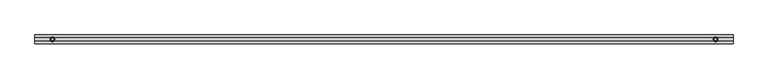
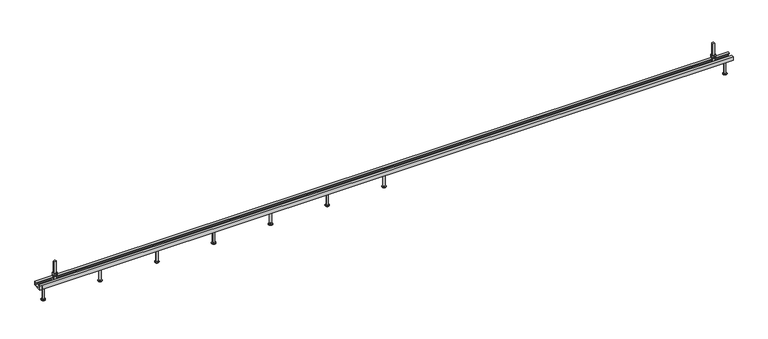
"""IFC4 building model written with IfcOpenShell, lengths in millimetres: fastener geometry, JTA-K JORDAHL® AnchorChannels : JTA-K L=3000 mm."""

from ifc_helpers import new_model, si_unit, point, frame, frame_2d, origin, place, context, project, spatial, polyline, circle_curve, trimmed, segment, composite_curve, outline, extrude, source, transform, mapped, element, save
from ifc_brep_helpers import plane_surface, cylinder_surface, revolved_surface, advanced_brep


def fastener_4211a4d2(model_context):
    return source(origin(), model_context, "Body", "SolidModel", [
        advanced_brep(
        [(1500.0, 0.0, -17.0), (1513.5, 0.0, -17.0), (1486.5, 0.0, -17.0), (1491.5, 0.0, -80.0), (1508.5, 0.0, -80.0), (1500.0, 0.0, -80.0), (1491.5, 0.0, -78.0), (1508.5, 0.0, -78.0), (1495.5, 0.0, -75.6905989), (1504.5, 0.0, -75.6905989), (1495.5, 0.0, -19.5), (1504.5, 0.0, -19.5)],
        [
            (0, 1),
            (1, 2, circle_curve(frame((1500.0, 0.0, -17.0), z_axis=(0.0, 0.0, 1.0), x_axis=(1.0, 0.0, 0.0)), 13.5)),
            (2, 0),
            (2, 1, circle_curve(frame((1500.0, 0.0, -17.0), z_axis=(0.0, 0.0, 1.0), x_axis=(1.0, 0.0, 0.0)), 13.5)),
            (3, 4, circle_curve(frame((1500.0, 0.0, -80.0), z_axis=(0.0, 0.0, -1.0), x_axis=(1.0, 0.0, 0.0)), 8.5)),
            (4, 5),
            (5, 3),
            (4, 3, circle_curve(frame((1500.0, 0.0, -80.0), z_axis=(0.0, 0.0, -1.0), x_axis=(1.0, 0.0, 0.0)), 8.5)),
            (6, 7, circle_curve(frame((1500.0, 0.0, -78.0), z_axis=(0.0, 0.0, -1.0), x_axis=(1.0, 0.0, 0.0)), 8.5)),
            (7, 4),
            (3, 6),
            (7, 6, circle_curve(frame((1500.0, 0.0, -78.0), z_axis=(0.0, 0.0, -1.0), x_axis=(1.0, 0.0, 0.0)), 8.5)),
            (8, 9, circle_curve(frame((1500.0, 0.0, -75.6905989), z_axis=(0.0, 0.0, -1.0), x_axis=(1.0, 0.0, 0.0)), 4.5)),
            (9, 7),
            (6, 8),
            (9, 8, circle_curve(frame((1500.0, 0.0, -75.6905989), z_axis=(0.0, 0.0, -1.0), x_axis=(1.0, 0.0, 0.0)), 4.5)),
            (10, 11, circle_curve(frame((1500.0, 0.0, -19.5), z_axis=(0.0, 0.0, -1.0), x_axis=(1.0, 0.0, 0.0)), 4.5)),
            (11, 9),
            (8, 10),
            (11, 10, circle_curve(frame((1500.0, 0.0, -19.5), z_axis=(0.0, 0.0, -1.0), x_axis=(1.0, 0.0, 0.0)), 4.5)),
            (1, 11),
            (10, 2),
        ],
        [
            plane_surface(frame((1500.0, 0.0, -17.0), z_axis=(0.0, 0.0, 1.0), x_axis=(1.0, 0.0, 0.0))),
            plane_surface(frame((1500.0, 0.0, -80.0), z_axis=(0.0, 0.0, -1.0), x_axis=(1.0, 0.0, 0.0))),
            cylinder_surface(frame((1500.0, 0.0, 2277.3150031), z_axis=(0.0, 0.0, 1.0), x_axis=(1.0, 0.0, 0.0)), 8.5),
            revolved_surface(polyline([(1508.5, 0.0, -78.0), (1504.5, 0.0, -75.6905989)]), (1500.0, 0.0, 2277.3150031), (0.0, 0.0, 1.0)),
            cylinder_surface(frame((1500.0, 0.0, 2277.3150031), z_axis=(0.0, 0.0, 1.0), x_axis=(1.0, 0.0, 0.0)), 4.5),
            revolved_surface(polyline([(1504.5, 0.0, -19.5), (1513.5, 0.0, -17.0)]), (1500.0, 0.0, 2277.3150031), (0.0, 0.0, 1.0)),
        ],
        [
            (0, [[1, 2, 3]]),
            (0, [[-3, 4, -1]]),
            (1, [[5, 6, 7]]),
            (1, [[8, -7, -6]]),
            (2, [[9, 10, -5, 11]]),
            (2, [[12, -11, -8, -10]]),
            (3, [[13, 14, -9, 15]]),
            (3, [[16, -15, -12, -14]]),
            (4, [[17, 18, -13, 19]]),
            (4, [[20, -19, -16, -18]]),
            (5, [[-2, 21, -17, 22]]),
            (5, [[-4, -22, -20, -21]]),
        ],
    ),
        advanced_brep(
        [(1254.1666667, 0.0, -17.0), (1267.6666667, 0.0, -17.0), (1240.6666667, 0.0, -17.0), (1245.6666667, 0.0, -80.0), (1262.6666667, 0.0, -80.0), (1254.1666667, 0.0, -80.0), (1245.6666667, 0.0, -78.0), (1262.6666667, 0.0, -78.0), (1249.6666667, 0.0, -75.6905989), (1258.6666667, 0.0, -75.6905989), (1249.6666667, 0.0, -19.5), (1258.6666667, 0.0, -19.5)],
        [
            (0, 1),
            (1, 2, circle_curve(frame((1254.1666667, 0.0, -17.0), z_axis=(0.0, 0.0, 1.0), x_axis=(1.0, 0.0, 0.0)), 13.5)),
            (2, 0),
            (2, 1, circle_curve(frame((1254.1666667, 0.0, -17.0), z_axis=(0.0, 0.0, 1.0), x_axis=(1.0, 0.0, 0.0)), 13.5)),
            (3, 4, circle_curve(frame((1254.1666667, 0.0, -80.0), z_axis=(0.0, 0.0, -1.0), x_axis=(1.0, 0.0, 0.0)), 8.5)),
            (4, 5),
            (5, 3),
            (4, 3, circle_curve(frame((1254.1666667, 0.0, -80.0), z_axis=(0.0, 0.0, -1.0), x_axis=(1.0, 0.0, 0.0)), 8.5)),
            (6, 7, circle_curve(frame((1254.1666667, 0.0, -78.0), z_axis=(0.0, 0.0, -1.0), x_axis=(1.0, 0.0, 0.0)), 8.5)),
            (7, 4),
            (3, 6),
            (7, 6, circle_curve(frame((1254.1666667, 0.0, -78.0), z_axis=(0.0, 0.0, -1.0), x_axis=(1.0, 0.0, 0.0)), 8.5)),
            (8, 9, circle_curve(frame((1254.1666667, 0.0, -75.6905989), z_axis=(0.0, 0.0, -1.0), x_axis=(1.0, 0.0, 0.0)), 4.5)),
            (9, 7),
            (6, 8),
            (9, 8, circle_curve(frame((1254.1666667, 0.0, -75.6905989), z_axis=(0.0, 0.0, -1.0), x_axis=(1.0, 0.0, 0.0)), 4.5)),
            (10, 11, circle_curve(frame((1254.1666667, 0.0, -19.5), z_axis=(0.0, 0.0, -1.0), x_axis=(1.0, 0.0, 0.0)), 4.5)),
            (11, 9),
            (8, 10),
            (11, 10, circle_curve(frame((1254.1666667, 0.0, -19.5), z_axis=(0.0, 0.0, -1.0), x_axis=(1.0, 0.0, 0.0)), 4.5)),
            (1, 11),
            (10, 2),
        ],
        [
            plane_surface(frame((1254.1666667, 0.0, -17.0), z_axis=(0.0, 0.0, 1.0), x_axis=(1.0, 0.0, 0.0))),
            plane_surface(frame((1254.1666667, 0.0, -80.0), z_axis=(0.0, 0.0, -1.0), x_axis=(1.0, 0.0, 0.0))),
            cylinder_surface(frame((1254.1666667, 0.0, 2277.3150031), z_axis=(0.0, 0.0, 1.0), x_axis=(1.0, 0.0, 0.0)), 8.5),
            revolved_surface(polyline([(1262.6666667, 0.0, -78.0), (1258.6666667, 0.0, -75.6905989)]), (1254.1666667, 0.0, 2277.3150031), (0.0, 0.0, 1.0)),
            cylinder_surface(frame((1254.1666667, 0.0, 2277.3150031), z_axis=(0.0, 0.0, 1.0), x_axis=(1.0, 0.0, 0.0)), 4.5),
            revolved_surface(polyline([(1258.6666667, 0.0, -19.5), (1267.6666667, 0.0, -17.0)]), (1254.1666667, 0.0, 2277.3150031), (0.0, 0.0, 1.0)),
        ],
        [
            (0, [[1, 2, 3]]),
            (0, [[-3, 4, -1]]),
            (1, [[5, 6, 7]]),
            (1, [[8, -7, -6]]),
            (2, [[9, 10, -5, 11]]),
            (2, [[12, -11, -8, -10]]),
            (3, [[13, 14, -9, 15]]),
            (3, [[16, -15, -12, -14]]),
            (4, [[17, 18, -13, 19]]),
            (4, [[20, -19, -16, -18]]),
            (5, [[-2, 21, -17, 22]]),
            (5, [[-4, -22, -20, -21]]),
        ],
    ),
        advanced_brep(
        [(1008.3333333, 0.0, -17.0), (1021.8333333, 0.0, -17.0), (994.8333333, 0.0, -17.0), (999.8333333, 0.0, -80.0), (1016.8333333, 0.0, -80.0), (1008.3333333, 0.0, -80.0), (999.8333333, 0.0, -78.0), (1016.8333333, 0.0, -78.0), (1003.8333333, 0.0, -75.6905989), (1012.8333333, 0.0, -75.6905989), (1003.8333333, 0.0, -19.5), (1012.8333333, 0.0, -19.5)],
        [
            (0, 1),
            (1, 2, circle_curve(frame((1008.3333333, 0.0, -17.0), z_axis=(0.0, 0.0, 1.0), x_axis=(1.0, 0.0, 0.0)), 13.5)),
            (2, 0),
            (2, 1, circle_curve(frame((1008.3333333, 0.0, -17.0), z_axis=(0.0, 0.0, 1.0), x_axis=(1.0, 0.0, 0.0)), 13.5)),
            (3, 4, circle_curve(frame((1008.3333333, 0.0, -80.0), z_axis=(0.0, 0.0, -1.0), x_axis=(1.0, 0.0, 0.0)), 8.5)),
            (4, 5),
            (5, 3),
            (4, 3, circle_curve(frame((1008.3333333, 0.0, -80.0), z_axis=(0.0, 0.0, -1.0), x_axis=(1.0, 0.0, 0.0)), 8.5)),
            (6, 7, circle_curve(frame((1008.3333333, 0.0, -78.0), z_axis=(0.0, 0.0, -1.0), x_axis=(1.0, 0.0, 0.0)), 8.5)),
            (7, 4),
            (3, 6),
            (7, 6, circle_curve(frame((1008.3333333, 0.0, -78.0), z_axis=(0.0, 0.0, -1.0), x_axis=(1.0, 0.0, 0.0)), 8.5)),
            (8, 9, circle_curve(frame((1008.3333333, 0.0, -75.6905989), z_axis=(0.0, 0.0, -1.0), x_axis=(1.0, 0.0, 0.0)), 4.5)),
            (9, 7),
            (6, 8),
            (9, 8, circle_curve(frame((1008.3333333, 0.0, -75.6905989), z_axis=(0.0, 0.0, -1.0), x_axis=(1.0, 0.0, 0.0)), 4.5)),
            (10, 11, circle_curve(frame((1008.3333333, 0.0, -19.5), z_axis=(0.0, 0.0, -1.0), x_axis=(1.0, 0.0, 0.0)), 4.5)),
            (11, 9),
            (8, 10),
            (11, 10, circle_curve(frame((1008.3333333, 0.0, -19.5), z_axis=(0.0, 0.0, -1.0), x_axis=(1.0, 0.0, 0.0)), 4.5)),
            (1, 11),
            (10, 2),
        ],
        [
            plane_surface(frame((1008.3333333, 0.0, -17.0), z_axis=(0.0, 0.0, 1.0), x_axis=(1.0, 0.0, 0.0))),
            plane_surface(frame((1008.3333333, 0.0, -80.0), z_axis=(0.0, 0.0, -1.0), x_axis=(1.0, 0.0, 0.0))),
            cylinder_surface(frame((1008.3333333, 0.0, 2277.3150031), z_axis=(0.0, 0.0, 1.0), x_axis=(1.0, 0.0, 0.0)), 8.5),
            revolved_surface(polyline([(1016.8333333, 0.0, -78.0), (1012.8333333, 0.0, -75.6905989)]), (1008.3333333, 0.0, 2277.3150031), (0.0, 0.0, 1.0)),
            cylinder_surface(frame((1008.3333333, 0.0, 2277.3150031), z_axis=(0.0, 0.0, 1.0), x_axis=(1.0, 0.0, 0.0)), 4.5),
            revolved_surface(polyline([(1012.8333333, 0.0, -19.5), (1021.8333333, 0.0, -17.0)]), (1008.3333333, 0.0, 2277.3150031), (0.0, 0.0, 1.0)),
        ],
        [
            (0, [[1, 2, 3]]),
            (0, [[-3, 4, -1]]),
            (1, [[5, 6, 7]]),
            (1, [[8, -7, -6]]),
            (2, [[9, 10, -5, 11]]),
            (2, [[12, -11, -8, -10]]),
            (3, [[13, 14, -9, 15]]),
            (3, [[16, -15, -12, -14]]),
            (4, [[17, 18, -13, 19]]),
            (4, [[20, -19, -16, -18]]),
            (5, [[-2, 21, -17, 22]]),
            (5, [[-4, -22, -20, -21]]),
        ],
    ),
        advanced_brep(
        [(762.5, 0.0, -17.0), (776.0, 0.0, -17.0), (749.0, 0.0, -17.0), (754.0, 0.0, -80.0), (771.0, 0.0, -80.0), (762.5, 0.0, -80.0), (754.0, 0.0, -78.0), (771.0, 0.0, -78.0), (758.0, 0.0, -75.6905989), (767.0, 0.0, -75.6905989), (758.0, 0.0, -19.5), (767.0, 0.0, -19.5)],
        [
            (0, 1),
            (1, 2, circle_curve(frame((762.5, 0.0, -17.0), z_axis=(0.0, 0.0, 1.0), x_axis=(1.0, 0.0, 0.0)), 13.5)),
            (2, 0),
            (2, 1, circle_curve(frame((762.5, 0.0, -17.0), z_axis=(0.0, 0.0, 1.0), x_axis=(1.0, 0.0, 0.0)), 13.5)),
            (3, 4, circle_curve(frame((762.5, 0.0, -80.0), z_axis=(0.0, 0.0, -1.0), x_axis=(1.0, 0.0, 0.0)), 8.5)),
            (4, 5),
            (5, 3),
            (4, 3, circle_curve(frame((762.5, 0.0, -80.0), z_axis=(0.0, 0.0, -1.0), x_axis=(1.0, 0.0, 0.0)), 8.5)),
            (6, 7, circle_curve(frame((762.5, 0.0, -78.0), z_axis=(0.0, 0.0, -1.0), x_axis=(1.0, 0.0, 0.0)), 8.5)),
            (7, 4),
            (3, 6),
            (7, 6, circle_curve(frame((762.5, 0.0, -78.0), z_axis=(0.0, 0.0, -1.0), x_axis=(1.0, 0.0, 0.0)), 8.5)),
            (8, 9, circle_curve(frame((762.5, 0.0, -75.6905989), z_axis=(0.0, 0.0, -1.0), x_axis=(1.0, 0.0, 0.0)), 4.5)),
            (9, 7),
            (6, 8),
            (9, 8, circle_curve(frame((762.5, 0.0, -75.6905989), z_axis=(0.0, 0.0, -1.0), x_axis=(1.0, 0.0, 0.0)), 4.5)),
            (10, 11, circle_curve(frame((762.5, 0.0, -19.5), z_axis=(0.0, 0.0, -1.0), x_axis=(1.0, 0.0, 0.0)), 4.5)),
            (11, 9),
            (8, 10),
            (11, 10, circle_curve(frame((762.5, 0.0, -19.5), z_axis=(0.0, 0.0, -1.0), x_axis=(1.0, 0.0, 0.0)), 4.5)),
            (1, 11),
            (10, 2),
        ],
        [
            plane_surface(frame((762.5, 0.0, -17.0), z_axis=(0.0, 0.0, 1.0), x_axis=(1.0, 0.0, 0.0))),
            plane_surface(frame((762.5, 0.0, -80.0), z_axis=(0.0, 0.0, -1.0), x_axis=(1.0, 0.0, 0.0))),
            cylinder_surface(frame((762.5, 0.0, 2277.3150031), z_axis=(0.0, 0.0, 1.0), x_axis=(1.0, 0.0, 0.0)), 8.5),
            revolved_surface(polyline([(771.0, 0.0, -78.0), (767.0, 0.0, -75.6905989)]), (762.5, 0.0, 2277.3150031), (0.0, 0.0, 1.0)),
            cylinder_surface(frame((762.5, 0.0, 2277.3150031), z_axis=(0.0, 0.0, 1.0), x_axis=(1.0, 0.0, 0.0)), 4.5),
            revolved_surface(polyline([(767.0, 0.0, -19.5), (776.0, 0.0, -17.0)]), (762.5, 0.0, 2277.3150031), (0.0, 0.0, 1.0)),
        ],
        [
            (0, [[1, 2, 3]]),
            (0, [[-3, 4, -1]]),
            (1, [[5, 6, 7]]),
            (1, [[8, -7, -6]]),
            (2, [[9, 10, -5, 11]]),
            (2, [[12, -11, -8, -10]]),
            (3, [[13, 14, -9, 15]]),
            (3, [[16, -15, -12, -14]]),
            (4, [[17, 18, -13, 19]]),
            (4, [[20, -19, -16, -18]]),
            (5, [[-2, 21, -17, 22]]),
            (5, [[-4, -22, -20, -21]]),
        ],
    ),
        advanced_brep(
        [(516.6666667, 0.0, -17.0), (530.1666667, 0.0, -17.0), (503.1666667, 0.0, -17.0), (508.1666667, 0.0, -80.0), (525.1666667, 0.0, -80.0), (516.6666667, 0.0, -80.0), (508.1666667, 0.0, -78.0), (525.1666667, 0.0, -78.0), (512.1666667, 0.0, -75.6905989), (521.1666667, 0.0, -75.6905989), (512.1666667, 0.0, -19.5), (521.1666667, 0.0, -19.5)],
        [
            (0, 1),
            (1, 2, circle_curve(frame((516.6666667, 0.0, -17.0), z_axis=(0.0, 0.0, 1.0), x_axis=(1.0, 0.0, 0.0)), 13.5)),
            (2, 0),
            (2, 1, circle_curve(frame((516.6666667, 0.0, -17.0), z_axis=(0.0, 0.0, 1.0), x_axis=(1.0, 0.0, 0.0)), 13.5)),
            (3, 4, circle_curve(frame((516.6666667, 0.0, -80.0), z_axis=(0.0, 0.0, -1.0), x_axis=(1.0, 0.0, 0.0)), 8.5)),
            (4, 5),
            (5, 3),
            (4, 3, circle_curve(frame((516.6666667, 0.0, -80.0), z_axis=(0.0, 0.0, -1.0), x_axis=(1.0, 0.0, 0.0)), 8.5)),
            (6, 7, circle_curve(frame((516.6666667, 0.0, -78.0), z_axis=(0.0, 0.0, -1.0), x_axis=(1.0, 0.0, 0.0)), 8.5)),
            (7, 4),
            (3, 6),
            (7, 6, circle_curve(frame((516.6666667, 0.0, -78.0), z_axis=(0.0, 0.0, -1.0), x_axis=(1.0, 0.0, 0.0)), 8.5)),
            (8, 9, circle_curve(frame((516.6666667, 0.0, -75.6905989), z_axis=(0.0, 0.0, -1.0), x_axis=(1.0, 0.0, 0.0)), 4.5)),
            (9, 7),
            (6, 8),
            (9, 8, circle_curve(frame((516.6666667, 0.0, -75.6905989), z_axis=(0.0, 0.0, -1.0), x_axis=(1.0, 0.0, 0.0)), 4.5)),
            (10, 11, circle_curve(frame((516.6666667, 0.0, -19.5), z_axis=(0.0, 0.0, -1.0), x_axis=(1.0, 0.0, 0.0)), 4.5)),
            (11, 9),
            (8, 10),
            (11, 10, circle_curve(frame((516.6666667, 0.0, -19.5), z_axis=(0.0, 0.0, -1.0), x_axis=(1.0, 0.0, 0.0)), 4.5)),
            (1, 11),
            (10, 2),
        ],
        [
            plane_surface(frame((516.6666667, 0.0, -17.0), z_axis=(0.0, 0.0, 1.0), x_axis=(1.0, 0.0, 0.0))),
            plane_surface(frame((516.6666667, 0.0, -80.0), z_axis=(0.0, 0.0, -1.0), x_axis=(1.0, 0.0, 0.0))),
            cylinder_surface(frame((516.6666667, 0.0, 2277.3150031), z_axis=(0.0, 0.0, 1.0), x_axis=(1.0, 0.0, 0.0)), 8.5),
            revolved_surface(polyline([(525.1666667, 0.0, -78.0), (521.1666667, 0.0, -75.6905989)]), (516.6666667, 0.0, 2277.3150031), (0.0, 0.0, 1.0)),
            cylinder_surface(frame((516.6666667, 0.0, 2277.3150031), z_axis=(0.0, 0.0, 1.0), x_axis=(1.0, 0.0, 0.0)), 4.5),
            revolved_surface(polyline([(521.1666667, 0.0, -19.5), (530.1666667, 0.0, -17.0)]), (516.6666667, 0.0, 2277.3150031), (0.0, 0.0, 1.0)),
        ],
        [
            (0, [[1, 2, 3]]),
            (0, [[-3, 4, -1]]),
            (1, [[5, 6, 7]]),
            (1, [[8, -7, -6]]),
            (2, [[9, 10, -5, 11]]),
            (2, [[12, -11, -8, -10]]),
            (3, [[13, 14, -9, 15]]),
            (3, [[16, -15, -12, -14]]),
            (4, [[17, 18, -13, 19]]),
            (4, [[20, -19, -16, -18]]),
            (5, [[-2, 21, -17, 22]]),
            (5, [[-4, -22, -20, -21]]),
        ],
    ),
        advanced_brep(
        [(270.8333333, 0.0, -17.0), (284.3333333, 0.0, -17.0), (257.3333333, 0.0, -17.0), (262.3333333, 0.0, -80.0), (279.3333333, 0.0, -80.0), (270.8333333, 0.0, -80.0), (262.3333333, 0.0, -78.0), (279.3333333, 0.0, -78.0), (266.3333333, 0.0, -75.6905989), (275.3333333, 0.0, -75.6905989), (266.3333333, 0.0, -19.5), (275.3333333, 0.0, -19.5)],
        [
            (0, 1),
            (1, 2, circle_curve(frame((270.8333333, 0.0, -17.0), z_axis=(0.0, 0.0, 1.0), x_axis=(1.0, 0.0, 0.0)), 13.5)),
            (2, 0),
            (2, 1, circle_curve(frame((270.8333333, 0.0, -17.0), z_axis=(0.0, 0.0, 1.0), x_axis=(1.0, 0.0, 0.0)), 13.5)),
            (3, 4, circle_curve(frame((270.8333333, 0.0, -80.0), z_axis=(0.0, 0.0, -1.0), x_axis=(1.0, 0.0, 0.0)), 8.5)),
            (4, 5),
            (5, 3),
            (4, 3, circle_curve(frame((270.8333333, 0.0, -80.0), z_axis=(0.0, 0.0, -1.0), x_axis=(1.0, 0.0, 0.0)), 8.5)),
            (6, 7, circle_curve(frame((270.8333333, 0.0, -78.0), z_axis=(0.0, 0.0, -1.0), x_axis=(1.0, 0.0, 0.0)), 8.5)),
            (7, 4),
            (3, 6),
            (7, 6, circle_curve(frame((270.8333333, 0.0, -78.0), z_axis=(0.0, 0.0, -1.0), x_axis=(1.0, 0.0, 0.0)), 8.5)),
            (8, 9, circle_curve(frame((270.8333333, 0.0, -75.6905989), z_axis=(0.0, 0.0, -1.0), x_axis=(1.0, 0.0, 0.0)), 4.5)),
            (9, 7),
            (6, 8),
            (9, 8, circle_curve(frame((270.8333333, 0.0, -75.6905989), z_axis=(0.0, 0.0, -1.0), x_axis=(1.0, 0.0, 0.0)), 4.5)),
            (10, 11, circle_curve(frame((270.8333333, 0.0, -19.5), z_axis=(0.0, 0.0, -1.0), x_axis=(1.0, 0.0, 0.0)), 4.5)),
            (11, 9),
            (8, 10),
            (11, 10, circle_curve(frame((270.8333333, 0.0, -19.5), z_axis=(0.0, 0.0, -1.0), x_axis=(1.0, 0.0, 0.0)), 4.5)),
            (1, 11),
            (10, 2),
        ],
        [
            plane_surface(frame((270.8333333, 0.0, -17.0), z_axis=(0.0, 0.0, 1.0), x_axis=(1.0, 0.0, 0.0))),
            plane_surface(frame((270.8333333, 0.0, -80.0), z_axis=(0.0, 0.0, -1.0), x_axis=(1.0, 0.0, 0.0))),
            cylinder_surface(frame((270.8333333, 0.0, 2277.3150031), z_axis=(0.0, 0.0, 1.0), x_axis=(1.0, 0.0, 0.0)), 8.5),
            revolved_surface(polyline([(279.3333333, 0.0, -78.0), (275.3333333, 0.0, -75.6905989)]), (270.8333333, 0.0, 2277.3150031), (0.0, 0.0, 1.0)),
            cylinder_surface(frame((270.8333333, 0.0, 2277.3150031), z_axis=(0.0, 0.0, 1.0), x_axis=(1.0, 0.0, 0.0)), 4.5),
            revolved_surface(polyline([(275.3333333, 0.0, -19.5), (284.3333333, 0.0, -17.0)]), (270.8333333, 0.0, 2277.3150031), (0.0, 0.0, 1.0)),
        ],
        [
            (0, [[1, 2, 3]]),
            (0, [[-3, 4, -1]]),
            (1, [[5, 6, 7]]),
            (1, [[8, -7, -6]]),
            (2, [[9, 10, -5, 11]]),
            (2, [[12, -11, -8, -10]]),
            (3, [[13, 14, -9, 15]]),
            (3, [[16, -15, -12, -14]]),
            (4, [[17, 18, -13, 19]]),
            (4, [[20, -19, -16, -18]]),
            (5, [[-2, 21, -17, 22]]),
            (5, [[-4, -22, -20, -21]]),
        ],
    ),
        extrude(outline(polyline([(2925.0, 9.2376043), (2933.0, 4.6188022), (2933.0, -4.6188022), (2925.0, -9.2376043), (2917.0, -4.6188022), (2917.0, 4.6188022), (2925.0, 9.2376043)]), holes=[composite_curve([segment(trimmed(circle_curve(frame_2d((2925.0, 0.0)), 5.0), [point((2920.0, 0.0))], [point((2930.0, 0.0))], True, "CARTESIAN"), True, "CONTINUOUS"), segment(trimmed(circle_curve(frame_2d((2925.0, 0.0)), 5.0), [point((2930.0, 0.0))], [point((2920.0, 0.0))], True, "CARTESIAN"), True, "CONTINUOUS")], self_intersect=False)]), frame((0.0, 0.0, 17.0), z_axis=(0.0, 0.0, 1.0), x_axis=(1.0, 0.0, 0.0)), (0.0, 0.0, 1.0), 8.4),
        extrude(outline(composite_curve([segment(trimmed(circle_curve(frame_2d((2925.0, 0.0)), 10.0), [point((2915.0, 0.0))], [point((2935.0, 0.0))], False, "CARTESIAN"), True, "CONTINUOUS"), segment(trimmed(circle_curve(frame_2d((2925.0, 0.0)), 10.0), [point((2935.0, 0.0))], [point((2915.0, 0.0))], False, "CARTESIAN"), True, "CONTINUOUS")], self_intersect=False), holes=[composite_curve([segment(trimmed(circle_curve(frame_2d((2925.0, 0.0)), 5.25), [point((2919.75, 0.0))], [point((2930.25, 0.0))], True, "CARTESIAN"), True, "CONTINUOUS"), segment(trimmed(circle_curve(frame_2d((2925.0, 0.0)), 5.25), [point((2930.25, 0.0))], [point((2919.75, 0.0))], True, "CARTESIAN"), True, "CONTINUOUS")], self_intersect=False)]), frame((0.0, 0.0, 15.0), z_axis=(0.0, 0.0, 1.0), x_axis=(1.0, 0.0, 0.0)), (0.0, 0.0, 1.0), 2.0),
        extrude(outline(polyline([(75.0, 9.2376043), (83.0, 4.6188022), (83.0, -4.6188022), (75.0, -9.2376043), (67.0, -4.6188022), (67.0, 4.6188022), (75.0, 9.2376043)]), holes=[composite_curve([segment(trimmed(circle_curve(frame_2d((75.0, 0.0)), 5.0), [point((70.0, 0.0))], [point((80.0, 0.0))], True, "CARTESIAN"), True, "CONTINUOUS"), segment(trimmed(circle_curve(frame_2d((75.0, 0.0)), 5.0), [point((80.0, 0.0))], [point((70.0, 0.0))], True, "CARTESIAN"), True, "CONTINUOUS")], self_intersect=False)]), frame((0.0, 0.0, 17.0), z_axis=(0.0, 0.0, 1.0), x_axis=(1.0, 0.0, 0.0)), (0.0, 0.0, 1.0), 8.4),
        extrude(outline(composite_curve([segment(trimmed(circle_curve(frame_2d((75.0, 0.0)), 10.0), [point((65.0, 0.0))], [point((85.0, 0.0))], False, "CARTESIAN"), True, "CONTINUOUS"), segment(trimmed(circle_curve(frame_2d((75.0, 0.0)), 10.0), [point((85.0, 0.0))], [point((65.0, 0.0))], False, "CARTESIAN"), True, "CONTINUOUS")], self_intersect=False), holes=[composite_curve([segment(trimmed(circle_curve(frame_2d((75.0, 0.0)), 5.25), [point((69.75, 0.0))], [point((80.25, 0.0))], True, "CARTESIAN"), True, "CONTINUOUS"), segment(trimmed(circle_curve(frame_2d((75.0, 0.0)), 5.25), [point((80.25, 0.0))], [point((69.75, 0.0))], True, "CARTESIAN"), True, "CONTINUOUS")], self_intersect=False)]), frame((0.0, 0.0, 15.0), z_axis=(0.0, 0.0, 1.0), x_axis=(1.0, 0.0, 0.0)), (0.0, 0.0, 1.0), 2.0),
        advanced_brep(
        [(2932.0, 16.0, -3.0), (2932.0, -16.0, -3.0), (2932.0, -16.0, -11.0), (2932.0, 16.0, -11.0), (2918.0, 16.0, -3.0), (2918.0, 16.0, -11.0), (2918.0, -16.0, -11.0), (2918.0, -16.0, -3.0), (2930.0, 0.0, -3.0), (2920.0, 0.0, -3.0), (2920.0, 0.0, 77.0), (2930.0, 0.0, 77.0)],
        [
            (0, 1),
            (1, 2),
            (2, 3),
            (3, 0),
            (4, 5),
            (5, 6),
            (6, 7),
            (7, 4),
            (0, 4),
            (7, 1),
            (8, 9, circle_curve(frame((2925.0, 0.0, -3.0), z_axis=(0.0, 0.0, -1.0), x_axis=(1.0, 0.0, 0.0)), 5.0)),
            (9, 8, circle_curve(frame((2925.0, 0.0, -3.0), z_axis=(0.0, 0.0, -1.0), x_axis=(1.0, 0.0, 0.0)), 5.0)),
            (6, 2),
            (5, 3),
            (10, 11, circle_curve(frame((2925.0, 0.0, 77.0), z_axis=(0.0, 0.0, 1.0), x_axis=(1.0, 0.0, 0.0)), 5.0)),
            (11, 10, circle_curve(frame((2925.0, 0.0, 77.0), z_axis=(0.0, 0.0, 1.0), x_axis=(1.0, 0.0, 0.0)), 5.0)),
            (10, 9),
            (8, 11),
        ],
        [
            plane_surface(frame((2932.0, -16.0, -3.0), z_axis=(1.0, 0.0, 0.0), x_axis=(0.0, -1.0, 0.0))),
            plane_surface(frame((2918.0, -16.0, -3.0), z_axis=(-1.0, 0.0, 0.0), x_axis=(0.0, 1.0, 0.0))),
            plane_surface(frame((2932.0, 16.0, -3.0), z_axis=(0.0, 0.0, 1.0), x_axis=(-1.0, 0.0, 0.0))),
            plane_surface(frame((2932.0, -16.0, -3.0), z_axis=(0.0, -1.0, 0.0), x_axis=(-1.0, 0.0, 0.0))),
            plane_surface(frame((2932.0, -16.0, -11.0), z_axis=(0.0, 0.0, -1.0), x_axis=(-1.0, 0.0, 0.0))),
            plane_surface(frame((2932.0, 16.0, -11.0), z_axis=(0.0, 1.0, 0.0), x_axis=(-1.0, 0.0, 0.0))),
            plane_surface(frame((2930.0, 0.0, 77.0), z_axis=(0.0, 0.0, 1.0), x_axis=(0.0, 1.0, 0.0))),
            cylinder_surface(frame((2925.0, 0.0, -3.0), z_axis=(0.0, 0.0, 1.0), x_axis=(1.0, 0.0, 0.0)), 5.0),
        ],
        [
            (0, [[1, 2, 3, 4]]),
            (1, [[5, 6, 7, 8]]),
            (2, [[-1, 9, -8, 10], [11, 12]]),
            (3, [[-2, -10, -7, 13]]),
            (4, [[-3, -13, -6, 14]]),
            (5, [[-4, -14, -5, -9]]),
            (6, [[15, 16]]),
            (7, [[-15, 17, -11, 18]]),
            (7, [[-16, -18, -12, -17]]),
        ],
    ),
        advanced_brep(
        [(82.0, 16.0, -3.0), (82.0, -16.0, -3.0), (82.0, -16.0, -11.0), (82.0, 16.0, -11.0), (68.0, 16.0, -3.0), (68.0, 16.0, -11.0), (68.0, -16.0, -11.0), (68.0, -16.0, -3.0), (80.0, 0.0, -3.0), (70.0, 0.0, -3.0), (70.0, 0.0, 77.0), (80.0, 0.0, 77.0)],
        [
            (0, 1),
            (1, 2),
            (2, 3),
            (3, 0),
            (4, 5),
            (5, 6),
            (6, 7),
            (7, 4),
            (0, 4),
            (7, 1),
            (8, 9, circle_curve(frame((75.0, 0.0, -3.0), z_axis=(0.0, 0.0, -1.0), x_axis=(1.0, 0.0, 0.0)), 5.0)),
            (9, 8, circle_curve(frame((75.0, 0.0, -3.0), z_axis=(0.0, 0.0, -1.0), x_axis=(1.0, 0.0, 0.0)), 5.0)),
            (6, 2),
            (5, 3),
            (10, 11, circle_curve(frame((75.0, 0.0, 77.0), z_axis=(0.0, 0.0, 1.0), x_axis=(1.0, 0.0, 0.0)), 5.0)),
            (11, 10, circle_curve(frame((75.0, 0.0, 77.0), z_axis=(0.0, 0.0, 1.0), x_axis=(1.0, 0.0, 0.0)), 5.0)),
            (10, 9),
            (8, 11),
        ],
        [
            plane_surface(frame((82.0, -16.0, -3.0), z_axis=(1.0, 0.0, 0.0), x_axis=(0.0, -1.0, 0.0))),
            plane_surface(frame((68.0, -16.0, -3.0), z_axis=(-1.0, 0.0, 0.0), x_axis=(0.0, 1.0, 0.0))),
            plane_surface(frame((82.0, 16.0, -3.0), z_axis=(0.0, 0.0, 1.0), x_axis=(-1.0, 0.0, 0.0))),
            plane_surface(frame((82.0, -16.0, -3.0), z_axis=(0.0, -1.0, 0.0), x_axis=(-1.0, 0.0, 0.0))),
            plane_surface(frame((82.0, -16.0, -11.0), z_axis=(0.0, 0.0, -1.0), x_axis=(-1.0, 0.0, 0.0))),
            plane_surface(frame((82.0, 16.0, -11.0), z_axis=(0.0, 1.0, 0.0), x_axis=(-1.0, 0.0, 0.0))),
            plane_surface(frame((80.0, 0.0, 77.0), z_axis=(0.0, 0.0, 1.0), x_axis=(0.0, 1.0, 0.0))),
            cylinder_surface(frame((75.0, 0.0, -3.0), z_axis=(0.0, 0.0, 1.0), x_axis=(1.0, 0.0, 0.0)), 5.0),
        ],
        [
            (0, [[1, 2, 3, 4]]),
            (1, [[5, 6, 7, 8]]),
            (2, [[-1, 9, -8, 10], [11, 12]]),
            (3, [[-2, -10, -7, 13]]),
            (4, [[-3, -13, -6, 14]]),
            (5, [[-4, -14, -5, -9]]),
            (6, [[15, 16]]),
            (7, [[-15, 17, -11, 18]]),
            (7, [[-16, -18, -12, -17]]),
        ],
    ),
        advanced_brep(
        [(2975.0, 0.0, -17.0), (2988.5, 0.0, -17.0), (2961.5, 0.0, -17.0), (2966.5, 0.0, -80.0), (2983.5, 0.0, -80.0), (2975.0, 0.0, -80.0), (2966.5, 0.0, -78.0), (2983.5, 0.0, -78.0), (2970.5, 0.0, -75.6905989), (2979.5, 0.0, -75.6905989), (2970.5, 0.0, -19.5), (2979.5, 0.0, -19.5)],
        [
            (0, 1),
            (1, 2, circle_curve(frame((2975.0, 0.0, -17.0), z_axis=(0.0, 0.0, 1.0), x_axis=(1.0, 0.0, 0.0)), 13.5)),
            (2, 0),
            (2, 1, circle_curve(frame((2975.0, 0.0, -17.0), z_axis=(0.0, 0.0, 1.0), x_axis=(1.0, 0.0, 0.0)), 13.5)),
            (3, 4, circle_curve(frame((2975.0, 0.0, -80.0), z_axis=(0.0, 0.0, -1.0), x_axis=(1.0, 0.0, 0.0)), 8.5)),
            (4, 5),
            (5, 3),
            (4, 3, circle_curve(frame((2975.0, 0.0, -80.0), z_axis=(0.0, 0.0, -1.0), x_axis=(1.0, 0.0, 0.0)), 8.5)),
            (6, 7, circle_curve(frame((2975.0, 0.0, -78.0), z_axis=(0.0, 0.0, -1.0), x_axis=(1.0, 0.0, 0.0)), 8.5)),
            (7, 4),
            (3, 6),
            (7, 6, circle_curve(frame((2975.0, 0.0, -78.0), z_axis=(0.0, 0.0, -1.0), x_axis=(1.0, 0.0, 0.0)), 8.5)),
            (8, 9, circle_curve(frame((2975.0, 0.0, -75.6905989), z_axis=(0.0, 0.0, -1.0), x_axis=(1.0, 0.0, 0.0)), 4.5)),
            (9, 7),
            (6, 8),
            (9, 8, circle_curve(frame((2975.0, 0.0, -75.6905989), z_axis=(0.0, 0.0, -1.0), x_axis=(1.0, 0.0, 0.0)), 4.5)),
            (10, 11, circle_curve(frame((2975.0, 0.0, -19.5), z_axis=(0.0, 0.0, -1.0), x_axis=(1.0, 0.0, 0.0)), 4.5)),
            (11, 9),
            (8, 10),
            (11, 10, circle_curve(frame((2975.0, 0.0, -19.5), z_axis=(0.0, 0.0, -1.0), x_axis=(1.0, 0.0, 0.0)), 4.5)),
            (1, 11),
            (10, 2),
        ],
        [
            plane_surface(frame((2975.0, 0.0, -17.0), z_axis=(0.0, 0.0, 1.0), x_axis=(1.0, 0.0, 0.0))),
            plane_surface(frame((2975.0, 0.0, -80.0), z_axis=(0.0, 0.0, -1.0), x_axis=(1.0, 0.0, 0.0))),
            cylinder_surface(frame((2975.0, 0.0, 2277.3150031), z_axis=(0.0, 0.0, 1.0), x_axis=(1.0, 0.0, 0.0)), 8.5),
            revolved_surface(polyline([(2983.5, 0.0, -78.0), (2979.5, 0.0, -75.6905989)]), (2975.0, 0.0, 2277.3150031), (0.0, 0.0, 1.0)),
            cylinder_surface(frame((2975.0, 0.0, 2277.3150031), z_axis=(0.0, 0.0, 1.0), x_axis=(1.0, 0.0, 0.0)), 4.5),
            revolved_surface(polyline([(2979.5, 0.0, -19.5), (2988.5, 0.0, -17.0)]), (2975.0, 0.0, 2277.3150031), (0.0, 0.0, 1.0)),
        ],
        [
            (0, [[1, 2, 3]]),
            (0, [[-3, 4, -1]]),
            (1, [[5, 6, 7]]),
            (1, [[8, -7, -6]]),
            (2, [[9, 10, -5, 11]]),
            (2, [[12, -11, -8, -10]]),
            (3, [[13, 14, -9, 15]]),
            (3, [[16, -15, -12, -14]]),
            (4, [[17, 18, -13, 19]]),
            (4, [[20, -19, -16, -18]]),
            (5, [[-2, 21, -17, 22]]),
            (5, [[-4, -22, -20, -21]]),
        ],
    ),
        advanced_brep(
        [(25.0, 0.0, -17.0), (38.5, 0.0, -17.0), (11.5, 0.0, -17.0), (16.5, 0.0, -80.0), (33.5, 0.0, -80.0), (25.0, 0.0, -80.0), (16.5, 0.0, -78.0), (33.5, 0.0, -78.0), (20.5, 0.0, -75.6905989), (29.5, 0.0, -75.6905989), (20.5, 0.0, -19.5), (29.5, 0.0, -19.5)],
        [
            (0, 1),
            (1, 2, circle_curve(frame((25.0, 0.0, -17.0), z_axis=(0.0, 0.0, 1.0), x_axis=(1.0, 0.0, 0.0)), 13.5)),
            (2, 0),
            (2, 1, circle_curve(frame((25.0, 0.0, -17.0), z_axis=(0.0, 0.0, 1.0), x_axis=(1.0, 0.0, 0.0)), 13.5)),
            (3, 4, circle_curve(frame((25.0, 0.0, -80.0), z_axis=(0.0, 0.0, -1.0), x_axis=(1.0, 0.0, 0.0)), 8.5)),
            (4, 5),
            (5, 3),
            (4, 3, circle_curve(frame((25.0, 0.0, -80.0), z_axis=(0.0, 0.0, -1.0), x_axis=(1.0, 0.0, 0.0)), 8.5)),
            (6, 7, circle_curve(frame((25.0, 0.0, -78.0), z_axis=(0.0, 0.0, -1.0), x_axis=(1.0, 0.0, 0.0)), 8.5)),
            (7, 4),
            (3, 6),
            (7, 6, circle_curve(frame((25.0, 0.0, -78.0), z_axis=(0.0, 0.0, -1.0), x_axis=(1.0, 0.0, 0.0)), 8.5)),
            (8, 9, circle_curve(frame((25.0, 0.0, -75.6905989), z_axis=(0.0, 0.0, -1.0), x_axis=(1.0, 0.0, 0.0)), 4.5)),
            (9, 7),
            (6, 8),
            (9, 8, circle_curve(frame((25.0, 0.0, -75.6905989), z_axis=(0.0, 0.0, -1.0), x_axis=(1.0, 0.0, 0.0)), 4.5)),
            (10, 11, circle_curve(frame((25.0, 0.0, -19.5), z_axis=(0.0, 0.0, -1.0), x_axis=(1.0, 0.0, 0.0)), 4.5)),
            (11, 9),
            (8, 10),
            (11, 10, circle_curve(frame((25.0, 0.0, -19.5), z_axis=(0.0, 0.0, -1.0), x_axis=(1.0, 0.0, 0.0)), 4.5)),
            (1, 11),
            (10, 2),
        ],
        [
            plane_surface(frame((25.0, 0.0, -17.0), z_axis=(0.0, 0.0, 1.0), x_axis=(1.0, 0.0, 0.0))),
            plane_surface(frame((25.0, 0.0, -80.0), z_axis=(0.0, 0.0, -1.0), x_axis=(1.0, 0.0, 0.0))),
            cylinder_surface(frame((25.0, 0.0, 2277.3150031), z_axis=(0.0, 0.0, 1.0), x_axis=(1.0, 0.0, 0.0)), 8.5),
            revolved_surface(polyline([(33.5, 0.0, -78.0), (29.5, 0.0, -75.6905989)]), (25.0, 0.0, 2277.3150031), (0.0, 0.0, 1.0)),
            cylinder_surface(frame((25.0, 0.0, 2277.3150031), z_axis=(0.0, 0.0, 1.0), x_axis=(1.0, 0.0, 0.0)), 4.5),
            revolved_surface(polyline([(29.5, 0.0, -19.5), (38.5, 0.0, -17.0)]), (25.0, 0.0, 2277.3150031), (0.0, 0.0, 1.0)),
        ],
        [
            (0, [[1, 2, 3]]),
            (0, [[-3, 4, -1]]),
            (1, [[5, 6, 7]]),
            (1, [[8, -7, -6]]),
            (2, [[9, 10, -5, 11]]),
            (2, [[12, -11, -8, -10]]),
            (3, [[13, 14, -9, 15]]),
            (3, [[16, -15, -12, -14]]),
            (4, [[17, 18, -13, 19]]),
            (4, [[20, -19, -16, -18]]),
            (5, [[-2, 21, -17, 22]]),
            (5, [[-4, -22, -20, -21]]),
        ],
    ),
        extrude(outline(polyline([(19.0, 0.0), (19.0, -17.0), (-19.0, -17.0), (-19.0, 0.0), (-9.0, 0.0), (-9.0, -3.0), (-16.0, -3.0), (-16.0, -14.0), (16.0, -14.0), (16.0, -3.0), (9.0, -3.0), (9.0, 0.0), (19.0, 0.0)])), frame((0.0, 0.0, 0.0), z_axis=(1.0, 0.0, 0.0), x_axis=(0.0, 1.0, 0.0)), (0.0, 0.0, 1.0), 3000.0),
    ])


if __name__ == "__main__":
    model = new_model("IFC4")
    model_context = context("Model", 3, world=origin())
    ifc_project = project(units=[si_unit("LENGTHUNIT", "METRE", prefix="MILLI")], contexts=[model_context])
    site = spatial("IfcSite", under=ifc_project)
    building = spatial("IfcBuilding", under=site)
    placement = place(None, origin())
    fastener_shape = fastener_4211a4d2(model_context)
    element("IfcFastener", 1, ObjectType="JTA-K JORDAHL® AnchorChannels : JTA-K L=3000 mm", at=placement, inside=building, context=model_context, shape_type="MappedRepresentation", body=[
        mapped(fastener_shape, transform((0.0, 0.0, 0.0), x_axis=(1.0, 0.0, 0.0), y_axis=(0.0, 1.0, 0.0), z_axis=(0.0, 0.0, 1.0))),
    ])
    save(model, "model.ifc")
